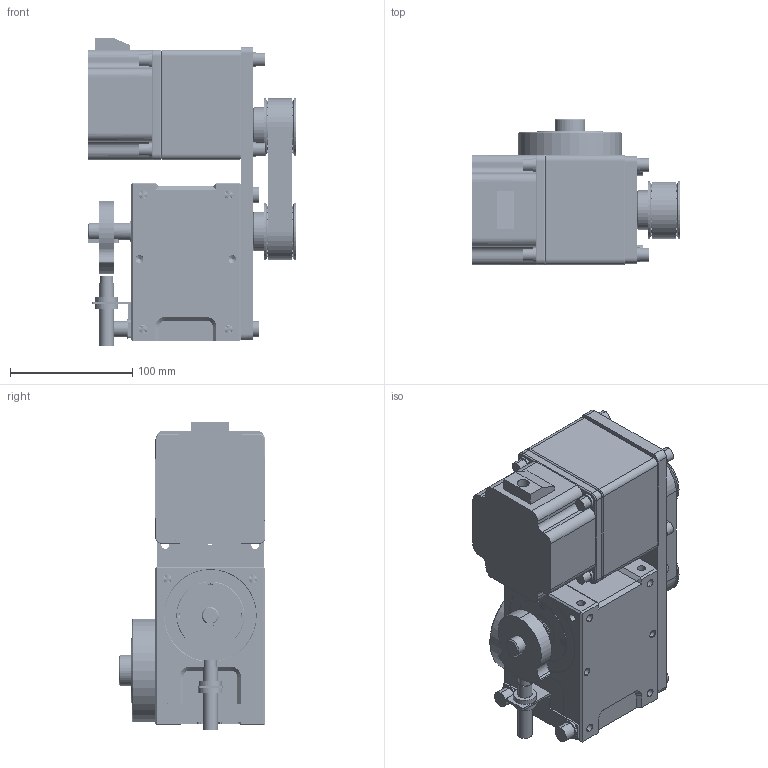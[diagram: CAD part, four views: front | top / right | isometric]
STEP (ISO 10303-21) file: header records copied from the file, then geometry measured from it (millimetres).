
FILE_DESCRIPTION (( 'STEP AP214' ), '1' );
FILE_NAME ('ER-RU45DF英锐凸轮分割器壳体法兰面销孔3D水平带轮式右侧前方ZDWS(电话15062628977)AA.STEP', '2022-07-08T07:38:56', ( '微软用户' ), ( '微软中国' ), 'SwSTEP 2.0', 'SolidWorks 2017', '' );
FILE_SCHEMA (( 'AUTOMOTIVE_DESIGN' ));
Length unit declared in the file: millimetre
Products named in the file (1): ER-RU45DF英锐凸轮分割器壳体法兰面销孔3D水平带轮式右侧前方ZDWS(电话15062628977)AA
Bounding box: 170 x 120 x 252.72 mm (x, y, z)
Volume: 2372182.7 mm3; surface area: 243090.5 mm2
Topology: 5 solids, 52 shells, 2851 faces, 7299 edges, 4622 vertices
Faces by surface type: cylinder 1374, plane 807, bspline 473, cone 173, torus 24
Entity records: 242136 total; most frequent: CARTESIAN_POINT 155442, ORIENTED_EDGE 14430, DIRECTION 9793, EDGE_CURVE 7215, VERTEX_POINT 4622, AXIS2_PLACEMENT_3D 3456, EDGE_LOOP 3053, LINE 2881
